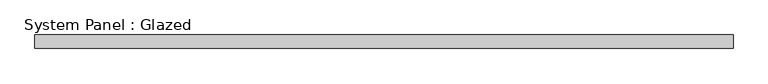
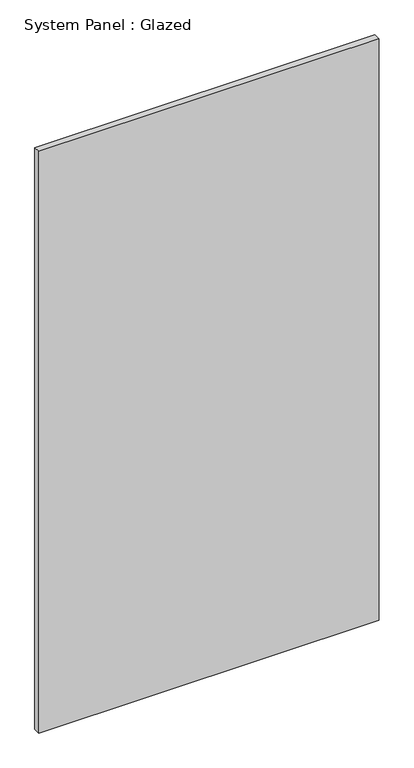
"""IFC4 building model written with IfcOpenShell, lengths in millimetres: plate geometry, System Panel : Glazed."""

from ifc_helpers import new_model, si_unit, origin, origin_with_axes, place, context, project, spatial, polyline, outline, extrude, source, transform, mapped, element, save


def system_panel_glazed_e98588a4(model_context):
    return source(origin(), model_context, "Body", "SweptSolid", [
        extrude(outline(polyline([(643.7499999, 24.5), (-643.7499999, 24.5), (-643.7499999, 49.5), (643.7499999, 49.5), (643.7499999, 24.5)])), origin_with_axes(), (0.0, 0.0, 1.0), 2325.0),
    ])


if __name__ == "__main__":
    model = new_model("IFC4")
    model_context = context("Model", 3, world=origin())
    ifc_project = project(units=[si_unit("LENGTHUNIT", "METRE", prefix="MILLI")], contexts=[model_context])
    site = spatial("IfcSite", under=ifc_project)
    building = spatial("IfcBuilding", under=site)
    placement = place(None, origin())
    system_panel_glazed_shape = system_panel_glazed_e98588a4(model_context)
    element("IfcPlate", 1, ObjectType="System Panel : Glazed", at=placement, inside=building, context=model_context, shape_type="MappedRepresentation", body=[
        mapped(system_panel_glazed_shape, transform((0.0, 0.0, 0.0), x_axis=(1.0, 0.0, 0.0), y_axis=(0.0, 1.0, 0.0), z_axis=(0.0, 0.0, 1.0))),
    ])
    save(model, "model.ifc")
